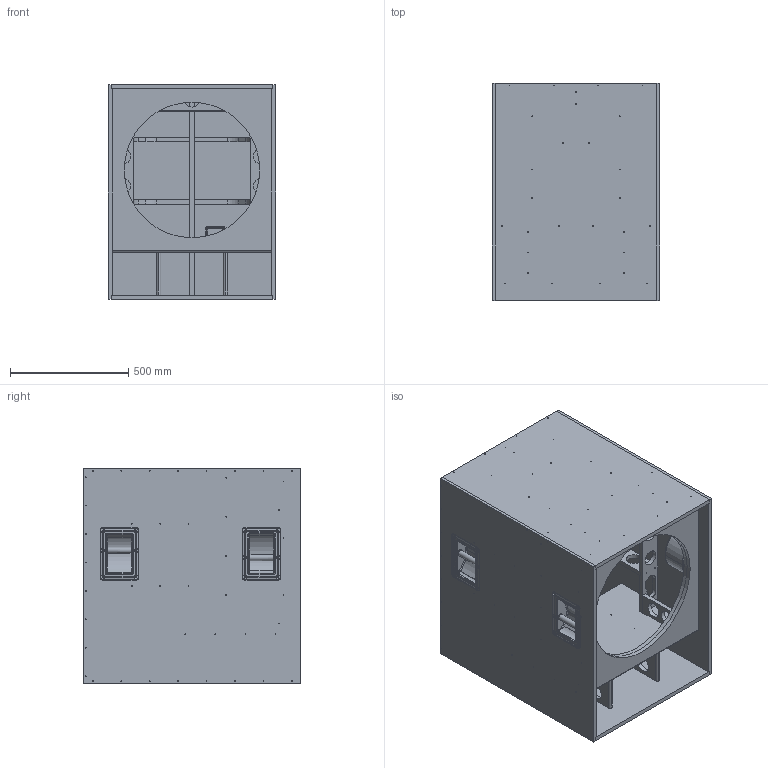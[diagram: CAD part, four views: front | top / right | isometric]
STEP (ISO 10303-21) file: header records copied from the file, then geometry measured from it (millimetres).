
FILE_DESCRIPTION(/* description */ (''),/* implementation_level */ '2;1');
FILE_NAME(/* name */ 'PJ0510_A.stp',/* time_stamp */ '2026-05-01T14:12:29+01:00',/* author */ (''),/* organization */ (''),/* preprocessor_version */ 'ST-DEVELOPER v19.3',/* originating_system */ 'SIEMENS PLM Software NX2212.4000',/* authorisation */ '');
FILE_SCHEMA (('AUTOMOTIVE_DESIGN { 1 0 10303 214 3 1 1 1 }'));
Products named in the file (1): A_objects
Bounding box: 706 x 915 x 906 mm (x, y, z)
Volume: 85907522 mm3; surface area: 11756390.8 mm2
Topology: 26 solids, 26 shells, 1663 faces, 4472 edges, 2849 vertices
Faces by surface type: cylinder 585, plane 486, bspline 392, revolution 176, extrusion 16, torus 8
Full cylindrical faces by diameter (mm): 3 x187, 3.4 x4, 5.2 x28, 10.5 x8, 19.4 x8, 21.2 x8, 23 x4, 24 x2, 25.4 x4, 65 x71, 100 x6, 572 x2
Entity records: 62917 total; most frequent: CARTESIAN_POINT 23848, ORIENTED_EDGE 7786, DIRECTION 7255, EDGE_CURVE 3893, AXIS2_PLACEMENT_3D 2853, EDGE_LOOP 2697, VERTEX_POINT 2670, CIRCLE 1773
